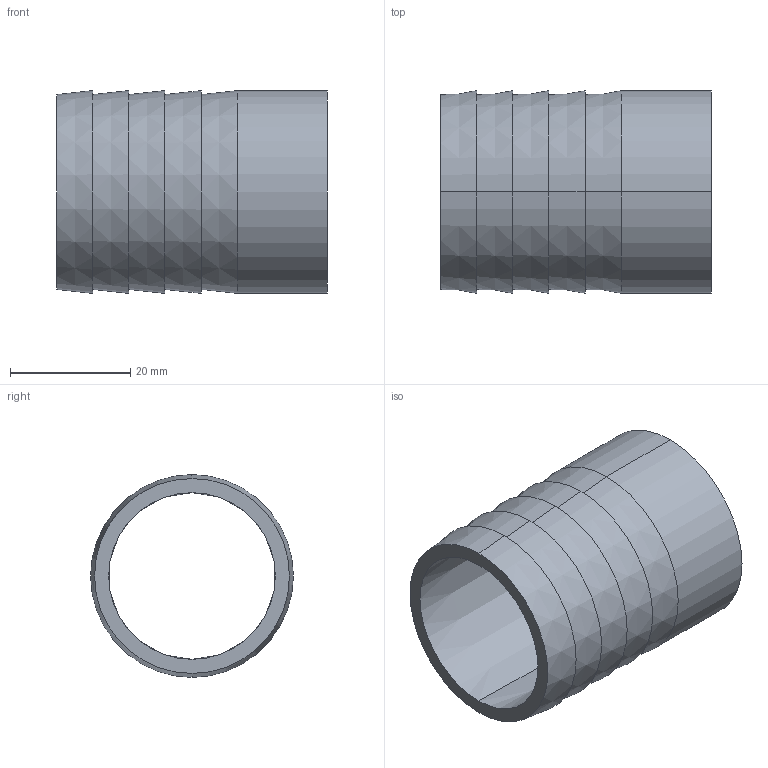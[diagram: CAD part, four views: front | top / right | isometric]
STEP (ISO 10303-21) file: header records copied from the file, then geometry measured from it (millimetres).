
FILE_DESCRIPTION (( 'STEP AP203' ), '1' );
FILE_NAME ('3D_R141-K_33.7-33.7_171313060.STEP', '2024-08-19T12:58:02', ( '' ), ( '' ), 'SwSTEP 2.0', 'SolidWorks 2024', '' );
FILE_SCHEMA (( 'CONFIG_CONTROL_DESIGN' ));
Length unit declared in the file: millimetre
Products named in the file (1): 3D_R141-K_33.7-33.7_171313060
Bounding box: 45 x 33.7 x 33.7 mm (x, y, z)
Volume: 11010.6 mm3; surface area: 9445 mm2
Topology: 1 solids, 1 shells, 20 faces, 40 edges, 26 vertices
Faces by surface type: cone 12, plane 6, cylinder 2
Entity records: 615 total; most frequent: DIRECTION 108, CARTESIAN_POINT 87, ORIENTED_EDGE 80, AXIS2_PLACEMENT_3D 47, EDGE_CURVE 40, CIRCLE 26, VERTEX_POINT 26, EDGE_LOOP 26
